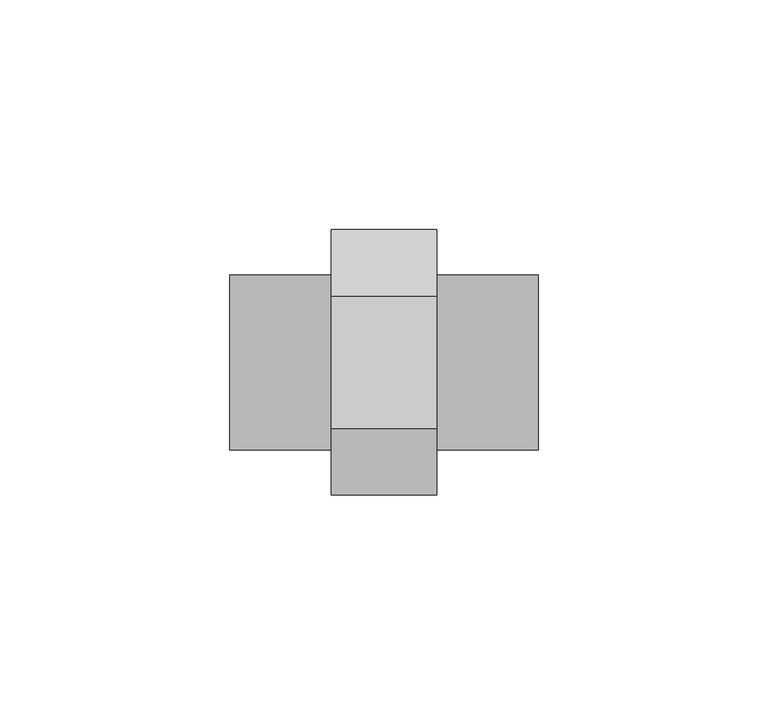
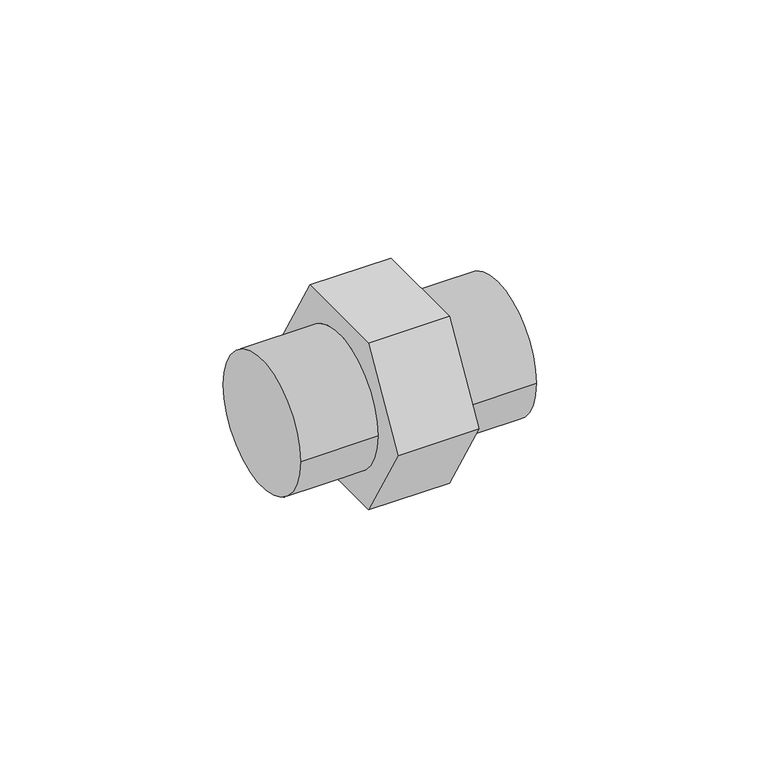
"""IFC4 building model written with IfcOpenShell, lengths in millimetres: pipe fitting geometry, 01011009 : Mamelons doubles."""

from ifc_helpers import new_model, si_unit, frame, origin, place, context, project, spatial, circle_curve, source, transform, mapped, element, save
from ifc_brep_helpers import plane_surface, cylinder_surface, advanced_brep


def pipe_fitting_b8668d43(model_context):
    return source(origin(), model_context, "Body", "AdvancedBrep", [
        advanced_brep(
        [(11.5, -14.4337567, 25.0), (11.5, -28.8675135, 0.0), (11.5, -14.4337567, -25.0), (11.5, 14.4337567, -25.0), (11.5, 28.8675135, 0.0), (11.5, 14.4337567, 25.0), (11.5, -19.05, 0.0), (11.5, 19.05, 0.0), (-11.5, -14.4337567, 25.0), (-11.5, 14.4337567, 25.0), (-11.5, 28.8675135, 0.0), (-11.5, 14.4337567, -25.0), (-11.5, -14.4337567, -25.0), (-11.5, -28.8675135, 0.0), (-11.5, 19.05, 0.0), (-11.5, -19.05, 0.0), (-33.5, -19.05, 0.0), (-33.5, 19.05, 0.0), (33.5, -19.05, 0.0), (33.5, 19.05, 0.0)],
        [
            (0, 1),
            (1, 2),
            (2, 3),
            (3, 4),
            (4, 5),
            (5, 0),
            (6, 7, circle_curve(frame((11.5, 0.0, 0.0), z_axis=(-1.0, 0.0, 0.0), x_axis=(0.0, 1.0, 0.0)), 19.05)),
            (7, 6, circle_curve(frame((11.5, 0.0, 0.0), z_axis=(-1.0, 0.0, 0.0), x_axis=(0.0, 1.0, 0.0)), 19.05)),
            (8, 9),
            (9, 10),
            (10, 11),
            (11, 12),
            (12, 13),
            (13, 8),
            (14, 15, circle_curve(frame((-11.5, 0.0, 0.0), z_axis=(1.0, 0.0, 0.0), x_axis=(0.0, 1.0, 0.0)), 19.05)),
            (15, 14, circle_curve(frame((-11.5, 0.0, 0.0), z_axis=(1.0, 0.0, 0.0), x_axis=(0.0, 1.0, 0.0)), 19.05)),
            (0, 8),
            (13, 1),
            (12, 2),
            (11, 3),
            (10, 4),
            (9, 5),
            (16, 17, circle_curve(frame((-33.5, 0.0, 0.0), z_axis=(-1.0, 0.0, 0.0), x_axis=(0.0, 1.0, 0.0)), 19.05)),
            (17, 16, circle_curve(frame((-33.5, 0.0, 0.0), z_axis=(-1.0, 0.0, 0.0), x_axis=(0.0, 1.0, 0.0)), 19.05)),
            (18, 19, circle_curve(frame((33.5, 0.0, 0.0), z_axis=(1.0, 0.0, 0.0), x_axis=(0.0, 1.0, 0.0)), 19.05)),
            (19, 18, circle_curve(frame((33.5, 0.0, 0.0), z_axis=(1.0, 0.0, 0.0), x_axis=(0.0, 1.0, 0.0)), 19.05)),
            (16, 15),
            (14, 17),
            (19, 7),
            (6, 18),
        ],
        [
            plane_surface(frame((11.5, -14.4337567, 25.0), z_axis=(1.0000000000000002, 0.0, 0.0), x_axis=(0.0, -0.5000000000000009, -0.8660254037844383))),
            plane_surface(frame((-11.5, -14.4337567, 25.0), z_axis=(-1.0000000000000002, 0.0, 0.0), x_axis=(0.0, 0.5000000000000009, 0.8660254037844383))),
            plane_surface(frame((11.5, -14.4337567, 25.0), z_axis=(0.0, -0.8660254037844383, 0.5000000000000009), x_axis=(-1.0, 0.0, 0.0))),
            plane_surface(frame((11.5, -28.8675135, 0.0), z_axis=(0.0, -0.866025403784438, -0.500000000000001), x_axis=(-1.0, 0.0, 0.0))),
            plane_surface(frame((11.5, -14.4337567, -25.0), z_axis=(0.0, 0.0, -1.0), x_axis=(-1.0, 0.0, 0.0))),
            plane_surface(frame((11.5, 14.4337567, -25.0), z_axis=(0.0, 0.8660254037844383, -0.5000000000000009), x_axis=(-1.0, 0.0, 0.0))),
            plane_surface(frame((11.5, 28.8675135, 0.0), z_axis=(0.0, 0.866025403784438, 0.500000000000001), x_axis=(-1.0, 0.0, 0.0))),
            plane_surface(frame((11.5, 14.4337567, 25.0), z_axis=(0.0, 0.0, 1.0), x_axis=(-1.0, 0.0, 0.0))),
            plane_surface(frame((-33.5, 0.0, 0.0), z_axis=(-1.0, 0.0, 0.0), x_axis=(0.0, 0.0, 1.0))),
            plane_surface(frame((33.5, 0.0, 0.0), z_axis=(1.0, 0.0, 0.0), x_axis=(0.0, 0.0, 1.0))),
            cylinder_surface(frame((-33.5, 0.0, 0.0), z_axis=(-1.0, 0.0, 0.0), x_axis=(0.0, 1.0, 0.0)), 19.05),
        ],
        [
            (0, [[1, 2, 3, 4, 5, 6], [7, 8]]),
            (1, [[9, 10, 11, 12, 13, 14], [15, 16]]),
            (2, [[-1, 17, -14, 18]]),
            (3, [[-2, -18, -13, 19]]),
            (4, [[-3, -19, -12, 20]]),
            (5, [[-4, -20, -11, 21]]),
            (6, [[-5, -21, -10, 22]]),
            (7, [[-6, -22, -9, -17]]),
            (8, [[23, 24]]),
            (9, [[25, 26]]),
            (10, [[-23, 27, -15, 28]]),
            (10, [[-26, 29, -7, 30]]),
            (10, [[-24, -28, -16, -27]]),
            (10, [[-25, -30, -8, -29]]),
        ],
    ),
    ])


if __name__ == "__main__":
    model = new_model("IFC4")
    model_context = context("Model", 3, world=origin())
    ifc_project = project(units=[si_unit("LENGTHUNIT", "METRE", prefix="MILLI")], contexts=[model_context])
    site = spatial("IfcSite", under=ifc_project)
    building = spatial("IfcBuilding", under=site)
    placement = place(None, origin())
    pipe_fitting_shape = pipe_fitting_b8668d43(model_context)
    element("IfcPipeFitting", 1, ObjectType="01011009 : Mamelons doubles", at=placement, inside=building, context=model_context, shape_type="MappedRepresentation", body=[
        mapped(pipe_fitting_shape, transform((0.0, 0.0, 0.0), x_axis=(1.0, 0.0, 0.0), y_axis=(0.0, 1.0, 0.0), z_axis=(0.0, 0.0, 1.0))),
    ])
    save(model, "model.ifc")
